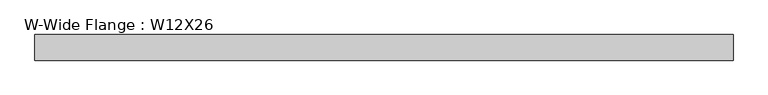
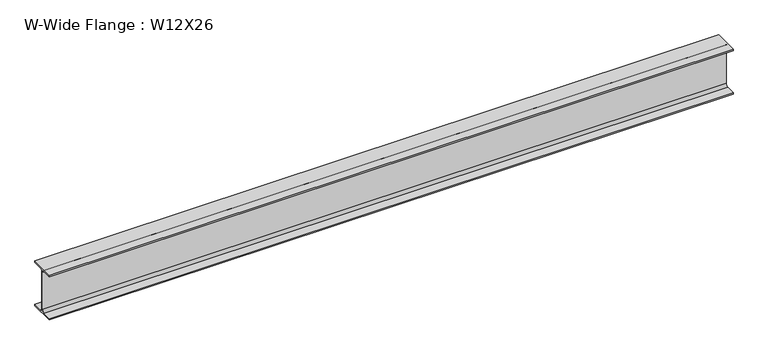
"""IFC4 building model written with IfcOpenShell, lengths in millimetres: member geometry, W-Wide Flange : W12X26."""

from ifc_helpers import new_model, si_unit, point, frame, frame_2d, origin, place, context, project, spatial, polyline, circle_curve, trimmed, segment, composite_curve, outline, extrude, source, transform, mapped, element, save


def w_wide_flange_w12x26_a27a9426(model_context):
    return source(origin(), model_context, "Body", "SweptSolid", [
        extrude(outline(composite_curve([segment(polyline([(82.4011719, -145.5539063), (82.4011719, -155.178125), (-82.4011719, -155.178125), (-82.4011719, -145.5539063), (-20.2902344, -145.5539063)]), True, "CONTINUOUS"), segment(trimmed(circle_curve(frame_2d((-20.2902344, -128.190625)), 17.3632812), [point((-20.2902344, -145.5539063))], [point((-2.9269531, -128.190625))], True, "CARTESIAN"), True, "CONTINUOUS"), segment(polyline([(-2.9269531, -128.190625), (-2.9269531, 128.190625)]), True, "CONTINUOUS"), segment(trimmed(circle_curve(frame_2d((-20.2902344, 128.190625)), 17.3632812), [point((-2.9269531, 128.190625))], [point((-20.2902344, 145.5539062))], True, "CARTESIAN"), True, "CONTINUOUS"), segment(polyline([(-20.2902344, 145.5539062), (-82.4011719, 145.5539062), (-82.4011719, 155.178125), (82.4011719, 155.178125), (82.4011719, 145.5539062), (20.2902344, 145.5539062)]), True, "CONTINUOUS"), segment(trimmed(circle_curve(frame_2d((20.2902344, 128.190625)), 17.3632812), [point((20.2902344, 145.5539062))], [point((2.9269531, 128.190625))], True, "CARTESIAN"), True, "CONTINUOUS"), segment(polyline([(2.9269531, 128.190625), (2.9269531, -128.190625)]), True, "CONTINUOUS"), segment(trimmed(circle_curve(frame_2d((20.2902344, -128.190625)), 17.3632812), [point((2.9269531, -128.190625))], [point((20.2902344, -145.5539063))], True, "CARTESIAN"), True, "CONTINUOUS"), segment(polyline([(20.2902344, -145.5539063), (82.4011719, -145.5539063)]), True, "CONTINUOUS")], self_intersect=False)), frame((-2107.9564677, 0.0, 0.0), z_axis=(1.0, 0.0, 0.0), x_axis=(0.0, 1.0, 0.0)), (0.0, 0.0, 1.0), 4482.9824243),
    ])


if __name__ == "__main__":
    model = new_model("IFC4")
    model_context = context("Model", 3, world=origin())
    ifc_project = project(units=[si_unit("LENGTHUNIT", "METRE", prefix="MILLI")], contexts=[model_context])
    site = spatial("IfcSite", under=ifc_project)
    building = spatial("IfcBuilding", under=site)
    placement = place(None, origin())
    w_wide_flange_w12x26_shape = w_wide_flange_w12x26_a27a9426(model_context)
    element("IfcMember", 1, ObjectType="W-Wide Flange : W12X26", at=placement, inside=building, context=model_context, shape_type="MappedRepresentation", body=[
        mapped(w_wide_flange_w12x26_shape, transform((0.0, 0.0, 0.0), x_axis=(1.0, 0.0, 0.0), y_axis=(0.0, 1.0, 0.0), z_axis=(0.0, 0.0, 1.0))),
    ])
    save(model, "model.ifc")
